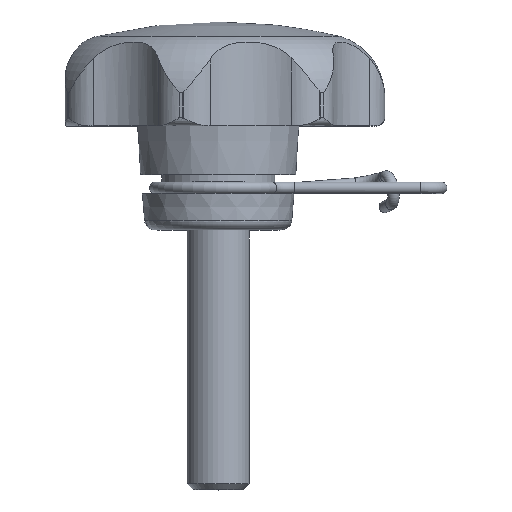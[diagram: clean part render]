
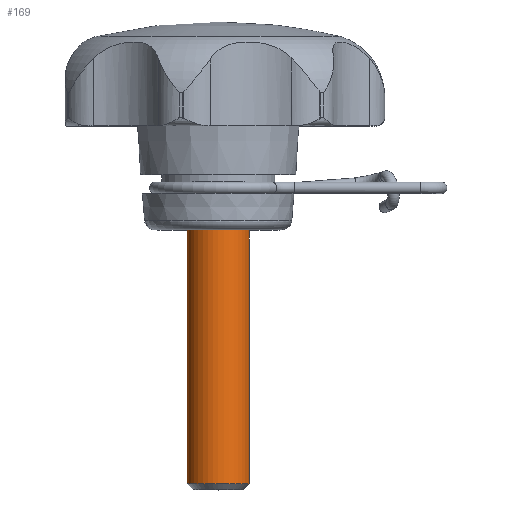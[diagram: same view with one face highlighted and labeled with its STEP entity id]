
A CAD part, top view. The second image highlights one B-rep face of the part: STEP entity #169.
In plain terms, the highlighted cylindrical face has radius 3 mm (diameter 6 mm), a full revolution.
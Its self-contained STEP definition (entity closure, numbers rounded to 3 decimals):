
#169 = ADVANCED_FACE( '', ( #388, #389 ), #390, .T. );
#388 = FACE_OUTER_BOUND( '', #615, .T. );
#389 = FACE_OUTER_BOUND( '', #616, .T. );
#390 = CYLINDRICAL_SURFACE( '', #617, 3. );
#615 = EDGE_LOOP( '', ( #1383 ) );
#616 = EDGE_LOOP( '', ( #1384 ) );
#617 = AXIS2_PLACEMENT_3D( '', #1385, #1386, #1387 );
#1383 = ORIENTED_EDGE( '', *, *, #1653, .F. );
#1384 = ORIENTED_EDGE( '', *, *, #1533, .T. );
#1385 = CARTESIAN_POINT( '', ( 0., -25., 0. ) );
#1386 = DIRECTION( '', ( 0., 1., 0. ) );
#1387 = DIRECTION( '', ( 0., 0., -1. ) );
#1533 = EDGE_CURVE( '', #1877, #1877, #1878, .T. );
#1653 = EDGE_CURVE( '', #2060, #2060, #2061, .T. );
#1877 = VERTEX_POINT( '', #3024 );
#1878 = CIRCLE( '', #3025, 3. );
#2060 = VERTEX_POINT( '', #3561 );
#2061 = CIRCLE( '', #3562, 3. );
#3024 = CARTESIAN_POINT( '', ( 0., 0., -3. ) );
#3025 = AXIS2_PLACEMENT_3D( '', #3714, #3715, #3716 );
#3561 = CARTESIAN_POINT( '', ( 0., -24.387, -3. ) );
#3562 = AXIS2_PLACEMENT_3D( '', #3927, #3928, #3929 );
#3714 = CARTESIAN_POINT( '', ( 0., 0., 0. ) );
#3715 = DIRECTION( '', ( 0., -1., 0. ) );
#3716 = DIRECTION( '', ( 0., 0., -1. ) );
#3927 = CARTESIAN_POINT( '', ( 0., -24.387, 0. ) );
#3928 = DIRECTION( '', ( 0., -1., 0. ) );
#3929 = DIRECTION( '', ( 0., 0., -1. ) );
